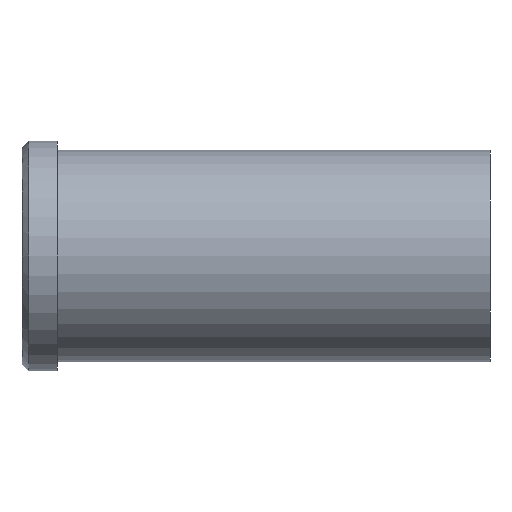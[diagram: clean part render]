
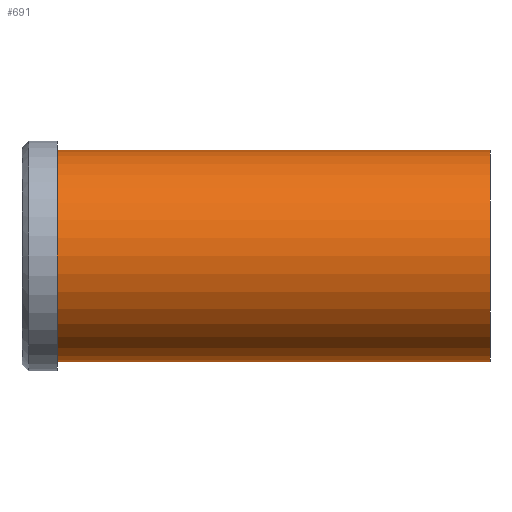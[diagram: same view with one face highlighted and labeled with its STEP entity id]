
A CAD part, front view. The second image highlights one B-rep face of the part: STEP entity #691.
In plain terms, the highlighted cylindrical face has radius 24 mm (diameter 48 mm), a partial arc.
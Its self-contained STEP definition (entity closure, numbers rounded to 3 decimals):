
#501=CARTESIAN_POINT('Vertex',(0.,0.,-24.)) ;
#506=CARTESIAN_POINT('Axis2P3D Location',(0.,0.,0.)) ;
#510=CARTESIAN_POINT('Vertex',(0.,-24.,0.)) ;
#513=CARTESIAN_POINT('Axis2P3D Location',(0.,0.,0.)) ;
#517=CARTESIAN_POINT('Vertex',(0.,0.,24.)) ;
#631=CARTESIAN_POINT('Line Origine',(98.,0.,24.)) ;
#635=CARTESIAN_POINT('Vertex',(98.,0.,24.)) ;
#649=CARTESIAN_POINT('Vertex',(98.,0.,-24.)) ;
#652=CARTESIAN_POINT('Line Origine',(98.,0.,-24.)) ;
#666=CARTESIAN_POINT('Axis2P3D Location',(98.,0.,0.)) ;
#671=CARTESIAN_POINT('Axis2P3D Location',(98.,0.,0.)) ;
#675=CARTESIAN_POINT('Vertex',(98.,-24.,0.)) ;
#678=CARTESIAN_POINT('Axis2P3D Location',(98.,0.,0.)) ;
#507=DIRECTION('Axis2P3D Direction',(1.,0.,-0.)) ;
#514=DIRECTION('Axis2P3D Direction',(1.,0.,-0.)) ;
#632=DIRECTION('Vector Direction',(-1.,0.,0.)) ;
#653=DIRECTION('Vector Direction',(-1.,0.,0.)) ;
#667=DIRECTION('Axis2P3D Direction',(-1.,-0.,-0.)) ;
#668=DIRECTION('Axis2P3D XDirection',(0.,0.,-1.)) ;
#672=DIRECTION('Axis2P3D Direction',(-1.,-0.,-0.)) ;
#679=DIRECTION('Axis2P3D Direction',(-1.,-0.,-0.)) ;
#508=AXIS2_PLACEMENT_3D('Circle Axis2P3D',#506,#507,$) ;
#515=AXIS2_PLACEMENT_3D('Circle Axis2P3D',#513,#514,$) ;
#669=AXIS2_PLACEMENT_3D('Cylinder Axis2P3D',#666,#667,#668) ;
#673=AXIS2_PLACEMENT_3D('Circle Axis2P3D',#671,#672,$) ;
#680=AXIS2_PLACEMENT_3D('Circle Axis2P3D',#678,#679,$) ;
#684=ORIENTED_EDGE('',*,*,#656,.T.) ;
#685=ORIENTED_EDGE('',*,*,#677,.F.) ;
#686=ORIENTED_EDGE('',*,*,#682,.F.) ;
#687=ORIENTED_EDGE('',*,*,#637,.T.) ;
#688=ORIENTED_EDGE('',*,*,#519,.T.) ;
#689=ORIENTED_EDGE('',*,*,#512,.T.) ;
#633=VECTOR('Line Direction',#632,1.) ;
#654=VECTOR('Line Direction',#653,1.) ;
#691=ADVANCED_FACE('353-40X106',(#690),#670,.T.) ;
#509=CIRCLE('generated circle',#508,24.) ;
#516=CIRCLE('generated circle',#515,24.) ;
#674=CIRCLE('generated circle',#673,24.) ;
#681=CIRCLE('generated circle',#680,24.) ;
#670=CYLINDRICAL_SURFACE('generated cylinder',#669,24.) ;
#512=EDGE_CURVE('',#511,#502,#509,.T.) ;
#519=EDGE_CURVE('',#518,#511,#516,.T.) ;
#637=EDGE_CURVE('',#636,#518,#634,.T.) ;
#656=EDGE_CURVE('',#502,#650,#655,.F.) ;
#677=EDGE_CURVE('',#676,#650,#674,.F.) ;
#682=EDGE_CURVE('',#636,#676,#681,.F.) ;
#683=EDGE_LOOP('',(#684,#685,#686,#687,#688,#689)) ;
#690=FACE_OUTER_BOUND('',#683,.T.) ;
#634=LINE('Line',#631,#633) ;
#655=LINE('Line',#652,#654) ;
#502=VERTEX_POINT('',#501) ;
#511=VERTEX_POINT('',#510) ;
#518=VERTEX_POINT('',#517) ;
#636=VERTEX_POINT('',#635) ;
#650=VERTEX_POINT('',#649) ;
#676=VERTEX_POINT('',#675) ;
